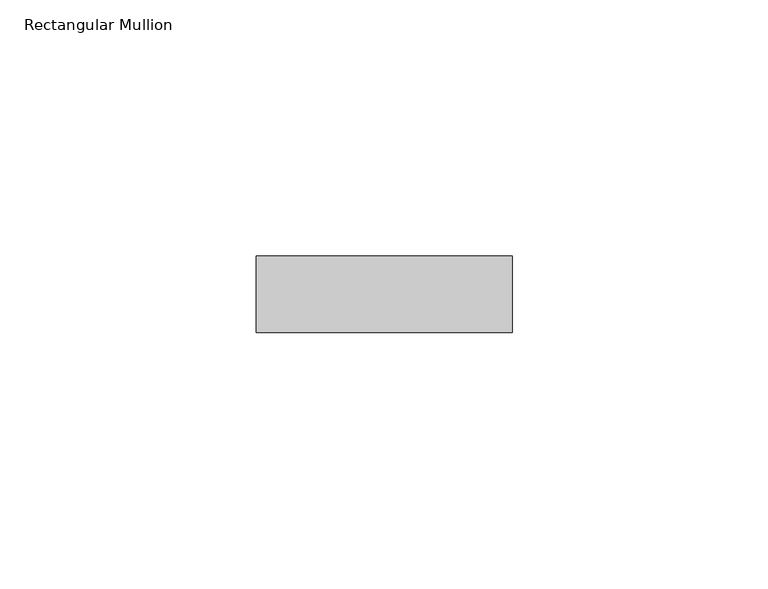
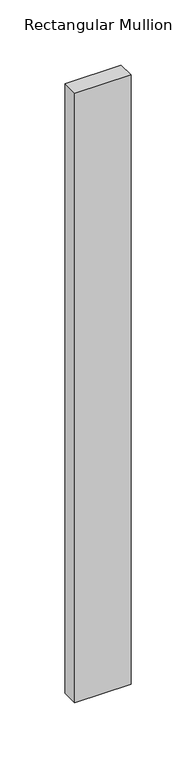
"""IFC4 building model written with IfcOpenShell, lengths in millimetres: member geometry, Rectangular Mullion : Ripa."""

from ifc_helpers import new_model, si_unit, frame, origin, place, context, project, spatial, polyline, outline, extrude, source, transform, mapped, element, save


def rectangular_mullion_71c73389(model_context):
    return source(origin(), model_context, "Body", "SweptSolid", [
        extrude(outline(polyline([(-50.0, -75.0), (-50.0, -60.0), (0.0, -60.0), (0.0, -75.0), (-50.0, -75.0)])), frame((0.0, 0.0, -572.0547567), z_axis=(0.0, 0.0, 1.0), x_axis=(1.0, 0.0, 0.0)), (0.0, 0.0, 1.0), 572.0547567),
    ])


if __name__ == "__main__":
    model = new_model("IFC4")
    model_context = context("Model", 3, world=origin())
    ifc_project = project(units=[si_unit("LENGTHUNIT", "METRE", prefix="MILLI")], contexts=[model_context])
    site = spatial("IfcSite", under=ifc_project)
    building = spatial("IfcBuilding", under=site)
    placement = place(None, origin())
    rectangular_mullion_shape = rectangular_mullion_71c73389(model_context)
    element("IfcMember", 1, ObjectType="Rectangular Mullion : Ripa", at=placement, inside=building, context=model_context, shape_type="MappedRepresentation", body=[
        mapped(rectangular_mullion_shape, transform((0.0, 0.0, 0.0), x_axis=(1.0, 0.0, 0.0), y_axis=(0.0, 1.0, 0.0), z_axis=(0.0, 0.0, 1.0))),
    ])
    save(model, "model.ifc")
